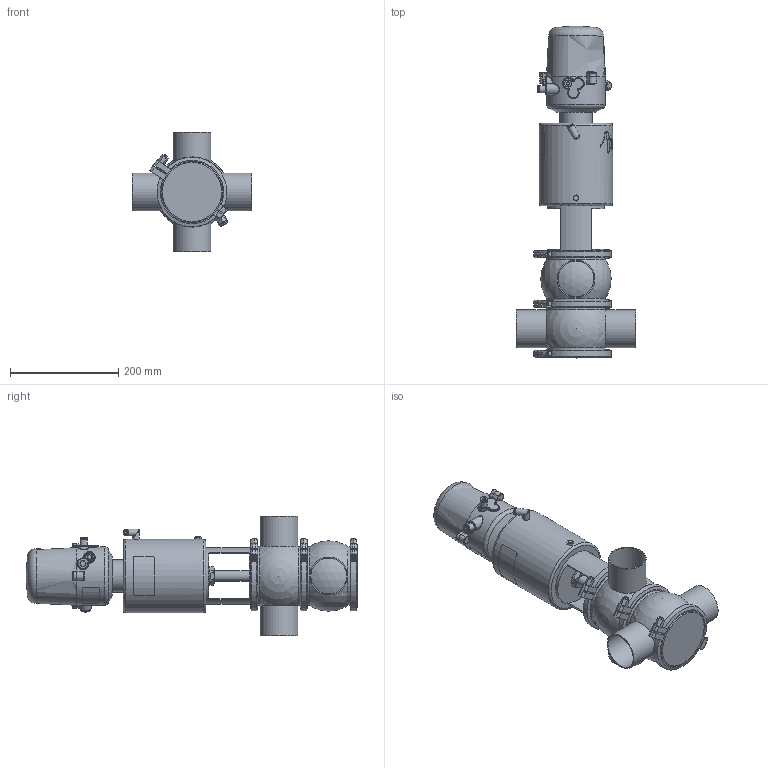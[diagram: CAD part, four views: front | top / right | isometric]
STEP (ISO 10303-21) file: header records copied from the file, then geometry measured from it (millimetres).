
FILE_DESCRIPTION (( 'STEP AP214' ), '1' );
FILE_NAME ('INNOVA M C W DIN 065 T3 AS NC & C-TOP S_10.241.16.0043.STEP', '2024-08-07T06:30:35', ( '' ), ( '' ), 'SwSTEP 2.0', 'SolidWorks 2023', '' );
FILE_SCHEMA (( 'AUTOMOTIVE_DESIGN' ));
Length unit declared in the file: millimetre
Products named in the file (8): 10.426.15.0001_C-TOP S - 1 EV; 10.240.15.0001_DN 065; 10.240.15.0010_DN 065; 10.240.15.0014_T3 AS P180; 10.240.15.0007_DIN 065; INNOVA M C W DIN 065 T3 AS NC & C-TOP S_10.241.16.0043; 10.240.15.0017_Estàndard; 10.241.15.0001_DIN 065
Assembly tree (10 placements, depth 2):
  INNOVA M C W DIN 065 T3 AS NC & C-TOP S_10.241.16.0043
    10.240.15.0007_DIN 065  x2
    10.240.15.0010_DN 065
    10.240.15.0014_T3 AS P180
    10.240.15.0017_Estàndard
    10.426.15.0001_C-TOP S - 1 EV
    10.240.15.0001_DN 065  x3
    10.241.15.0001_DIN 065
Bounding box: 220 x 613.5 x 220 mm (x, y, z)
Volume: 6261468.2 mm3; surface area: 560869.5 mm2
Topology: 11 solids, 11 shells, 1246 faces, 3014 edges, 2004 vertices
Faces by surface type: plane 448, cylinder 381, cone 211, bspline 160, torus 36, sphere 10
Full cylindrical faces by diameter (mm): 0.371 x17, 0.512 x16, 0.658 x16, 0.795 x16, 0.94 x15, 1.098 x15, 1.241 x13, 1.382 x13, 1.523 x11, 1.669 x10, 2.201 x1, 4 x2, 5.5 x2, 6 x2, 6.15 x1, 8 x8, 8.5 x1, 10 x1, 10.5 x1, 11 x2, 12.5 x3, 13 x2, 13.5 x2, 16 x1, 17 x3, 20 x3, 20.5 x1, 22 x2, 31 x1, 34.5 x3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
Entity records: 57870 total; most frequent: CARTESIAN_POINT 27742, ORIENTED_EDGE 4496, DIRECTION 3631, EDGE_CURVE 2248, VERTEX_POINT 1599, EDGE_LOOP 1559, AXIS2_PLACEMENT_3D 1487, FACE_OUTER_BOUND 1321
